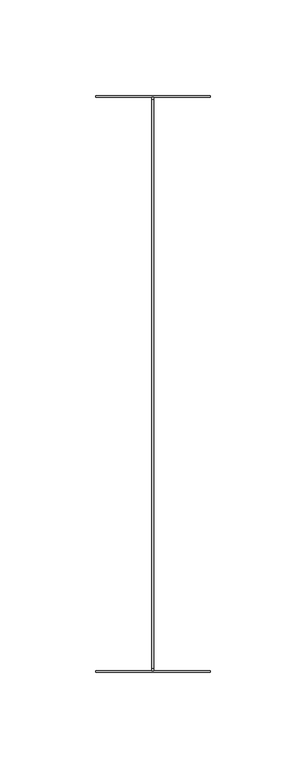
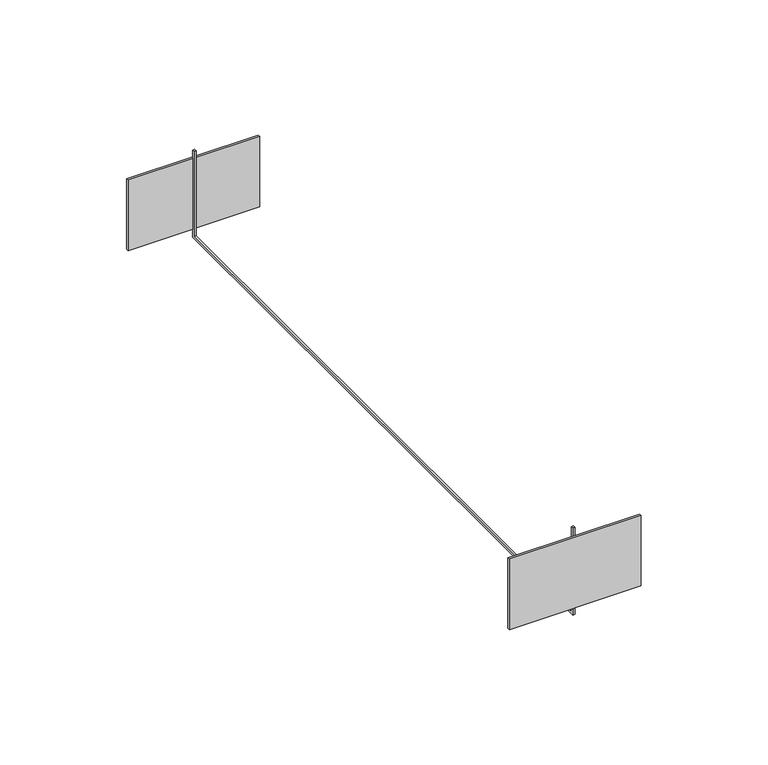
"""IFC4 building model written with IfcOpenShell, lengths in millimetres: cable carrier fitting geometry, BAKS_Plate connector : LPMU_H42."""

from ifc_helpers import new_model, si_unit, frame, origin, place, context, project, spatial, polyline, outline, extrude, source, transform, mapped, element, save


def cable_carrier_fitting_e93d4d17(model_context):
    return source(origin(), model_context, "Body", "SweptSolid", [
        extrude(outline(polyline([(30.5, 151.0), (30.5, 150.0), (-29.5, 150.0), (-29.5, 151.0), (30.5, 151.0)])), frame((0.0, 0.0, -17.0), z_axis=(0.0, 0.0, 1.0), x_axis=(1.0, 0.0, 0.0)), (0.0, 0.0, 1.0), 34.0),
        extrude(outline(polyline([(30.5, -150.0), (30.5, -151.0), (-29.5, -151.0), (-29.5, -150.0), (30.5, -150.0)])), frame((0.0, 0.0, -17.0), z_axis=(0.0, 0.0, 1.0), x_axis=(1.0, 0.0, 0.0)), (0.0, 0.0, 1.0), 34.0),
        extrude(outline(polyline([(-150.0, -21.0), (-150.0, 21.0), (-149.0, 21.0), (-149.0, -20.0), (149.0, -20.0), (149.0, 21.0), (150.0, 21.0), (150.0, -21.0), (-150.0, -21.0)])), frame((0.0, 0.0, 0.0), z_axis=(1.0, 0.0, 0.0), x_axis=(0.0, 1.0, 0.0)), (0.0, 0.0, 1.0), 1.0),
    ])


if __name__ == "__main__":
    model = new_model("IFC4")
    model_context = context("Model", 3, world=origin())
    ifc_project = project(units=[si_unit("LENGTHUNIT", "METRE", prefix="MILLI")], contexts=[model_context])
    site = spatial("IfcSite", under=ifc_project)
    building = spatial("IfcBuilding", under=site)
    placement = place(None, origin())
    cable_carrier_fitting_shape = cable_carrier_fitting_e93d4d17(model_context)
    element("IfcCableCarrierFitting", 1, ObjectType="BAKS_Plate connector : LPMU_H42", at=placement, inside=building, context=model_context, shape_type="MappedRepresentation", body=[
        mapped(cable_carrier_fitting_shape, transform((0.0, 0.0, 0.0), x_axis=(1.0, 0.0, 0.0), y_axis=(0.0, 1.0, 0.0), z_axis=(0.0, 0.0, 1.0))),
    ])
    save(model, "model.ifc")
